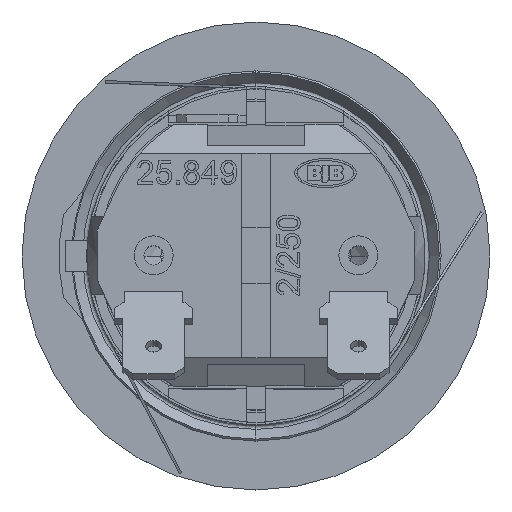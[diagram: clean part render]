
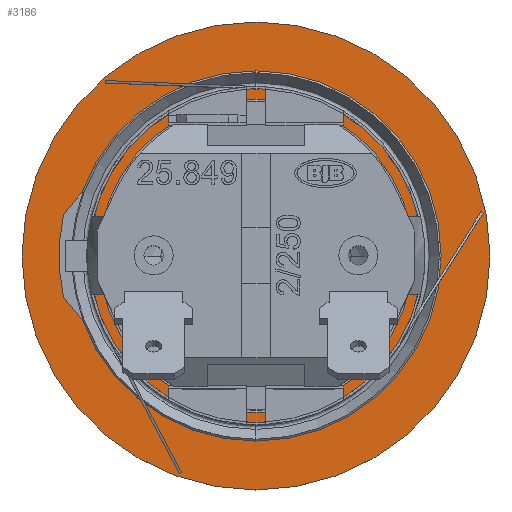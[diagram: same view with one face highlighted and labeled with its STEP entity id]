
A CAD part, top view. The second image highlights one B-rep face of the part: STEP entity #3186.
In plain terms, the highlighted planar face has unit normal (0, 0, 1) as drawn and (0, 0, -1) by its records, which use the part's own axes.
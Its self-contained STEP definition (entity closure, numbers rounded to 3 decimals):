
#2316=CARTESIAN_POINT(' ',(16.,0.,0.));
#2317=VERTEX_POINT(' ',#2316);
#2396=CARTESIAN_POINT(' ',(-16.,0.,0.));
#2397=VERTEX_POINT(' ',#2396);
#2411=CARTESIAN_POINT(' ',(0.,0.,0.));
#2416=DIRECTION(' ',(0.,-0.,-1.));
#2421=DIRECTION(' ',(-1.,0.,0.));
#2426=AXIS2_PLACEMENT_3D(' ',#2411,#2416,#2421);
#2431=CIRCLE('',#2426,16.);
#2436=EDGE_CURVE(' ',#2397,#2317,#2431,.T.);
#2601=CARTESIAN_POINT(' ',(0.,0.,0.));
#2606=DIRECTION(' ',(0.,0.,-1.));
#2611=DIRECTION(' ',(1.,0.,0.));
#2616=AXIS2_PLACEMENT_3D(' ',#2601,#2606,#2611);
#2621=CIRCLE('',#2616,16.);
#2626=EDGE_CURVE(' ',#2317,#2397,#2621,.T.);
#3051=DIRECTION(' ',(0.,0.,-1.));
#3056=CARTESIAN_POINT(' ',(24.,-24.719,0.));
#3061=DIRECTION(' ',(-1.,0.,0.));
#3066=AXIS2_PLACEMENT_3D(' ',#3056,#3051,#3061);
#3071=PLANE('',#3066);
#3076=CARTESIAN_POINT(' ',(0.,0.,0.));
#3081=DIRECTION(' ',(0.,-0.,-1.));
#3086=DIRECTION(' ',(-1.,0.,0.));
#3091=AXIS2_PLACEMENT_3D(' ',#3076,#3081,#3086);
#3096=CIRCLE('',#3091,24.);
#3101=CARTESIAN_POINT(' ',(-24.,0.,0.));
#3102=VERTEX_POINT(' ',#3101);
#3106=CARTESIAN_POINT(' ',(24.,0.,0.));
#3107=VERTEX_POINT(' ',#3106);
#3111=EDGE_CURVE(' ',#3102,#3107,#3096,.T.);
#3116=ORIENTED_EDGE(' ',*,*,#3111,.T.);
#3121=CARTESIAN_POINT(' ',(0.,0.,0.));
#3126=DIRECTION(' ',(0.,0.,-1.));
#3131=DIRECTION(' ',(1.,0.,0.));
#3136=AXIS2_PLACEMENT_3D(' ',#3121,#3126,#3131);
#3141=CIRCLE('',#3136,24.);
#3146=EDGE_CURVE(' ',#3107,#3102,#3141,.T.);
#3151=ORIENTED_EDGE(' ',*,*,#3146,.T.);
#3156=EDGE_LOOP(' ',(#3116,#3151));
#3161=FACE_OUTER_BOUND(' ',#3156,.T.);
#3166=ORIENTED_EDGE(' ',*,*,#2626,.F.);
#3171=ORIENTED_EDGE(' ',*,*,#2436,.F.);
#3176=EDGE_LOOP(' ',(#3166,#3171));
#3181=FACE_BOUND(' ',#3176,.T.);
#3186=ADVANCED_FACE('',(#3161,#3181),#3071,.T.);
